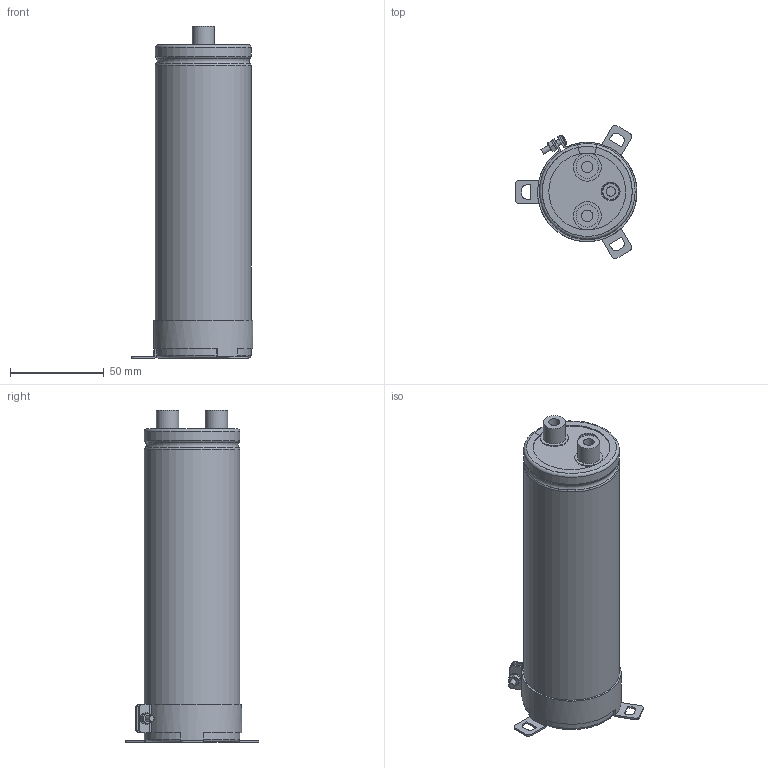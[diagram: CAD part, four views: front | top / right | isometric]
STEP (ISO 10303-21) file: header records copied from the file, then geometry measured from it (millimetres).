
FILE_DESCRIPTION(/* description */ (''),/* implementation_level */ '2;1');
FILE_NAME(/* name */ '51x167_EDLC_Screw.stp',/* time_stamp */ '2017-09-27T14:59:06+09:00',/* author */ (''),/* organization */ (''),/* preprocessor_version */ 'ST-DEVELOPER v16',/* originating_system */ 'SIEMENS PLM Software NX 11.0',/* authorisation */ '');
FILE_SCHEMA (('AUTOMOTIVE_DESIGN { 1 0 10303 214 3 1 1 1 }'));
Length unit declared in the file: millimetre
Products named in the file (1): 51x167_EDLC_Screw_1
Bounding box: 65 x 71.22 x 177 mm (x, y, z)
Volume: 343885.8 mm3; surface area: 94491.4 mm2
Topology: 9 solids, 9 shells, 257 faces, 639 edges, 411 vertices
Faces by surface type: plane 111, cylinder 65, torus 49, cone 31, sphere 1
Full cylindrical faces by diameter (mm): 3 x5, 5 x4, 5.5 x2, 6 x2, 10 x2, 12 x2, 15 x2, 49.8 x2
Entity records: 8377 total; most frequent: CARTESIAN_POINT 2059, DIRECTION 1288, ORIENTED_EDGE 1210, EDGE_CURVE 605, AXIS2_PLACEMENT_3D 537, VERTEX_POINT 406, EDGE_LOOP 313, CIRCLE 279
